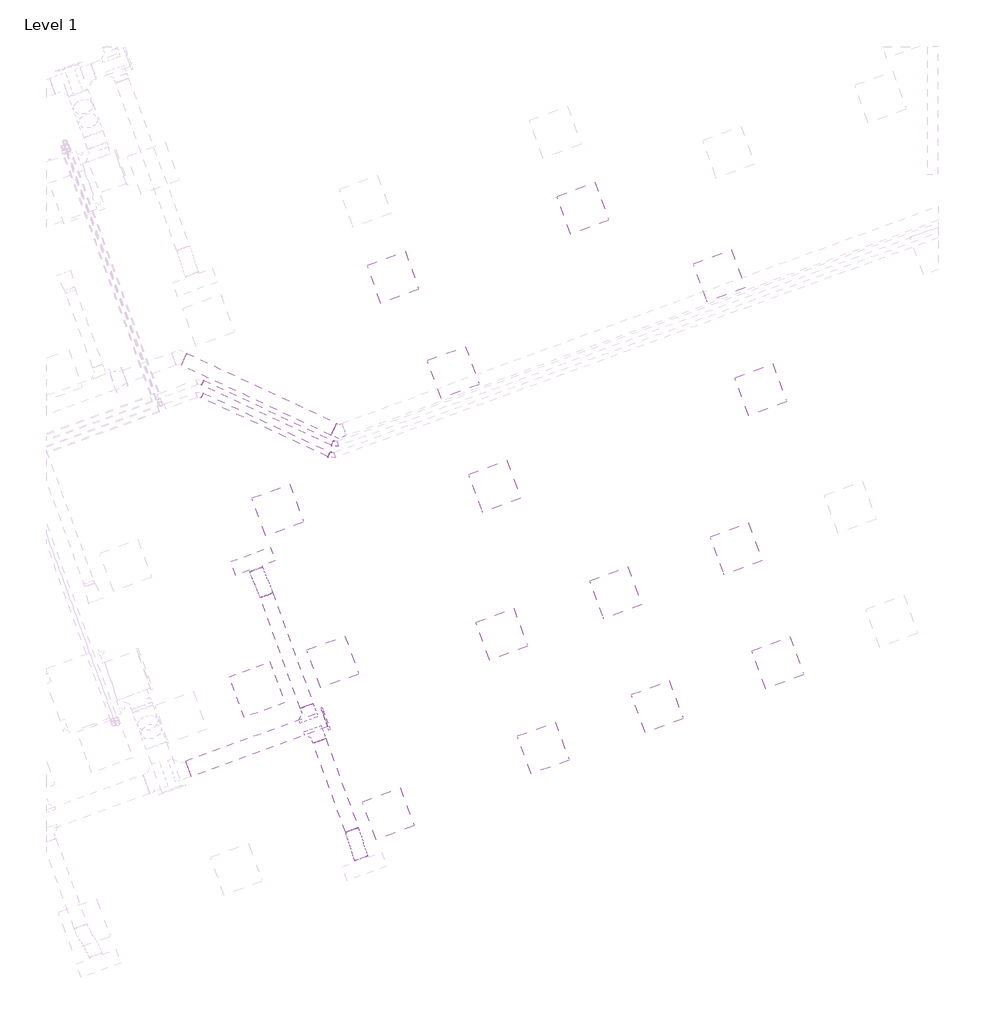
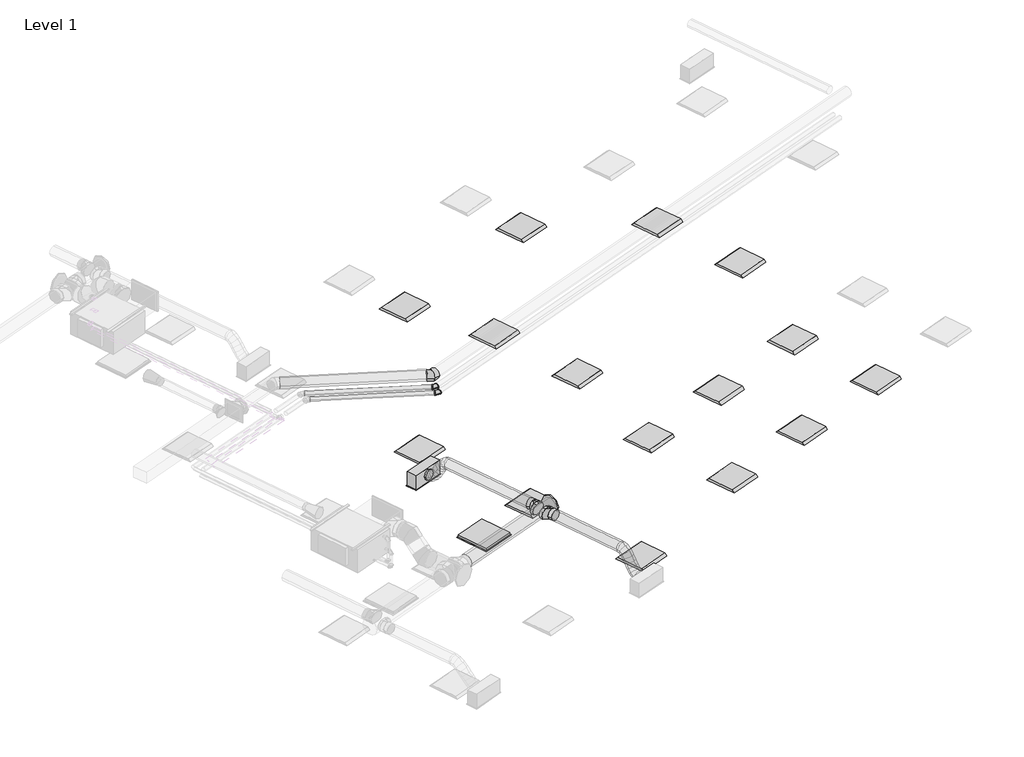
# One storey, part 24 of 30: 15 light fixtures, 6 duct segments, 4 duct fittings, 2 air terminals, 2 pipe fittings, 2 pipe segments.
"""IFC4 building model written with IfcOpenShell, lengths in millimetres."""

from ifc_helpers import new_model, si_unit, point, frame, frame_2d, origin, place, context, project, spatial, circle_curve, ellipse_curve, trimmed, segment, composite_curve, outline, extrude, transform, mapped, element, save
from ifc_brep_helpers import plane_surface, cylinder_surface, advanced_brep
from components import return_grille_rectangular_hosted_standard_7b12617c, supply_diffuser_with_plenum_linear_slot_hosted_8e4f2f20, dw144_round_blank_end_standard_9aa061e7, dw144_round_segmented_bend_slip_joint_standard_55afcd91, dw144_round_shoe_branch_slip_joint1_standard_2_559552f4, light_fixture_1c7c1157, light_fixture_b730b5ca, elbow_threaded_gmi_standard_9261818c

model = new_model("IFC4")

# Units and contexts
model_context = context("Model", 3, world=origin())
ifc_project = project(units=[si_unit("LENGTHUNIT", "METRE", prefix="MILLI")], contexts=[model_context])

# Site, building, storey
site = spatial("IfcSite", under=ifc_project)
building = spatial("IfcBuilding", under=site)
storey = spatial("IfcBuildingStorey", under=building, Name="Level 1", Elevation=3900.0)

# Air terminals
placement = place(None, origin())
return_grille_rectangular_hosted_standard_shape = return_grille_rectangular_hosted_standard_7b12617c(model_context)
element("IfcAirTerminal", 1, ObjectType="Return Grille - Rectangular - Hosted : Standard", at=placement, inside=storey, context=model_context, shape_type="MappedRepresentation", body=[
    mapped(return_grille_rectangular_hosted_standard_shape, transform((48064.0365319, 9235.5552547, 6500.0), x_axis=(0.939692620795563, 0.34202014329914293, 0.0), y_axis=(0.34202014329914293, -0.939692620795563, 0.0), z_axis=(0.0, 0.0, -1.0))),
])
supply_diffuser_with_plenum_linear_slot_hosted_shape = supply_diffuser_with_plenum_linear_slot_hosted_8e4f2f20(model_context)
element("IfcAirTerminal", 2, ObjectType="Supply Diffuser with Plenum - Linear Slot - Hosted : 24\" x 8\"-200 In Inlet  4-Slot", at=placement, inside=storey, context=model_context, shape_type="MappedRepresentation", body=[
    mapped(supply_diffuser_with_plenum_linear_slot_hosted_shape, transform((48007.2628307, 11142.0221269, 6500.0), x_axis=(0.9396926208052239, 0.3420201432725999, 0.0), y_axis=(0.3420201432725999, -0.9396926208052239, 0.0), z_axis=(0.0, 0.0, -1.0))),
])

# Duct fittings
dw144_round_blank_end_standard_shape = dw144_round_blank_end_standard_9aa061e7(model_context)
element("IfcDuctFitting", 3, ObjectType="DW144 Round Blank End : Standard", at=placement, inside=storey, context=model_context, shape_type="MappedRepresentation", body=[
    mapped(dw144_round_blank_end_standard_shape, transform((49072.7310347, 8798.1556694, 7052.2088531), x_axis=(0.9396926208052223, 0.3420201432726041, 0.0), y_axis=(-0.3420201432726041, 0.9396926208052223, 0.0), z_axis=(0.0, 0.0, 1.0))),
])
dw144_round_segmented_bend_slip_joint_standard_shape = dw144_round_segmented_bend_slip_joint_standard_55afcd91(model_context)
element("IfcDuctFitting", 4, ObjectType="DW144 Round Segmented Bend - Slip Joint : Standard", at=placement, inside=storey, context=model_context, shape_type="MappedRepresentation", body=[
    mapped(dw144_round_segmented_bend_slip_joint_standard_shape, transform((49279.3686987, 13067.8757559, 7000.0), x_axis=(0.9063077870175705, -0.42261826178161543, 0.0), y_axis=(0.42261826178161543, 0.9063077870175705, 0.0), z_axis=(0.0, 0.0, 1.0))),
])
dw144_round_shoe_branch_slip_joint1_standard_2_shape = dw144_round_shoe_branch_slip_joint1_standard_2_559552f4(model_context)
element("IfcDuctFitting", 5, ObjectType="DW144 Round Shoe Branch - Slip Joint1 : Standard 2", at=placement, inside=storey, context=model_context, shape_type="MappedRepresentation", body=[
    mapped(dw144_round_shoe_branch_slip_joint1_standard_2_shape, transform((48939.2384692, 8616.5461275, 7052.2088531), x_axis=(0.34202014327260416, -0.9396926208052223, 0.0), y_axis=(-0.9396926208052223, -0.34202014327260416, 0.0), z_axis=(0.0, 0.0, -1.0))),
])
element("IfcDuctFitting", 6, ObjectType="DW144 Round Shoe Branch - Slip Joint1 : Standard 2", at=placement, inside=storey, context=model_context, shape_type="MappedRepresentation", body=[
    mapped(dw144_round_shoe_branch_slip_joint1_standard_2_shape, transform((48853.7334333, 8851.4692827, 7052.2088531), x_axis=(-0.34202014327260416, 0.9396926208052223, 0.0), y_axis=(-0.9396926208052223, -0.34202014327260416, 0.0), z_axis=(0.0, 0.0, 1.0))),
])

# Duct segments
element("IfcDuctSegment", 7, ObjectType="DW144 Segmented Bend / Shoe Branch", at=placement, inside=storey, context=model_context, shape_type="SweptSolid", body=[
    extrude(outline(composite_curve([segment(trimmed(circle_curve(frame_2d((0.0, 125.0)), 125.0), [point((125.0, 125.0))], [point((0.0, 0.0))], False, "CARTESIAN"), True, "CONTINUOUS"), segment(trimmed(circle_curve(frame_2d((0.0, 125.0)), 125.0), [point((0.0, 0.0))], [point((-125.0, 125.0))], False, "CARTESIAN"), True, "CONTINUOUS"), segment(trimmed(circle_curve(frame_2d((0.0, 125.0)), 125.0), [point((-125.0, 125.0))], [point((0.0, 250.0))], False, "CARTESIAN"), True, "CONTINUOUS"), segment(trimmed(circle_curve(frame_2d((0.0, 125.0)), 125.0), [point((0.0, 250.0))], [point((125.0, 125.0))], False, "CARTESIAN"), True, "CONTINUOUS")], self_intersect=False)), frame((47047.5806818, 8061.0612212, 7177.2088531), z_axis=(0.9396926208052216, 0.34202014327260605, 0.0), x_axis=(0.34202014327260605, -0.9396926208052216, 0.0)), (0.0, 0.0, 1.0), 2155.1199914),
])
element("IfcDuctSegment", 8, ObjectType="DW144 Segmented Bend / Shoe Branch", at=placement, inside=storey, context=model_context, shape_type="SweptSolid", body=[
    extrude(outline(composite_curve([segment(trimmed(circle_curve(frame_2d((0.0, -100.0)), 100.0), [point((-100.0, -100.0))], [point((0.0, 0.0))], False, "CARTESIAN"), True, "CONTINUOUS"), segment(trimmed(circle_curve(frame_2d((0.0, -100.0)), 100.0), [point((0.0, 0.0))], [point((100.0, -100.0))], False, "CARTESIAN"), True, "CONTINUOUS"), segment(trimmed(circle_curve(frame_2d((0.0, -100.0)), 100.0), [point((100.0, -100.0))], [point((0.0, -200.0))], False, "CARTESIAN"), True, "CONTINUOUS"), segment(trimmed(circle_curve(frame_2d((0.0, -100.0)), 100.0), [point((0.0, -200.0))], [point((-100.0, -100.0))], False, "CARTESIAN"), True, "CONTINUOUS")], self_intersect=False)), frame((49472.7898927, 7150.6256391, 6952.2088531), z_axis=(-0.3420201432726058, 0.9396926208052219, 0.0), x_axis=(0.9396926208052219, 0.3420201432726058, 0.0)), (0.0, 0.0, 1.0), 1410.0),
])
element("IfcDuctSegment", 9, ObjectType="DW144 Segmented Bend / Shoe Branch", at=placement, inside=storey, context=model_context, shape_type="SweptSolid", body=[
    extrude(outline(composite_curve([segment(trimmed(circle_curve(frame_2d((0.0, 100.0)), 100.0), [point((99.9999999, 100.0))], [point((0.0, 0.0))], False, "CARTESIAN"), True, "CONTINUOUS"), segment(trimmed(circle_curve(frame_2d((0.0, 100.0)), 100.0), [point((0.0, 0.0))], [point((-100.0, 100.0))], False, "CARTESIAN"), True, "CONTINUOUS"), segment(trimmed(circle_curve(frame_2d((0.0, 100.0)), 100.0), [point((-100.0, 100.0))], [point((0.0, 200.0))], False, "CARTESIAN"), True, "CONTINUOUS"), segment(trimmed(circle_curve(frame_2d((0.0, 100.0)), 100.0), [point((0.0, 200.0))], [point((99.9999999, 100.0))], False, "CARTESIAN"), True, "CONTINUOUS")], self_intersect=False)), frame((48802.4304119, 8992.4231759, 7152.2088531), z_axis=(-0.3420201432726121, 0.9396926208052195, 0.0), x_axis=(0.9396926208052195, 0.3420201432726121, 0.0)), (0.0, 0.0, 1.0), 1749.637173),
])
element("IfcDuctSegment", 10, ObjectType="DW144 Segmented Bend / Shoe Branch", at=placement, inside=storey, context=model_context, shape_type="SweptSolid", body=[
    extrude(outline(composite_curve([segment(trimmed(circle_curve(frame_2d((0.0, 100.0)), 100.0), [point((100.0, 100.0))], [point((0.0, 0.0))], False, "CARTESIAN"), True, "CONTINUOUS"), segment(trimmed(circle_curve(frame_2d((0.0, 100.0)), 100.0), [point((0.0, 0.0))], [point((-100.0, 100.0))], False, "CARTESIAN"), True, "CONTINUOUS"), segment(trimmed(circle_curve(frame_2d((0.0, 100.0)), 100.0), [point((-100.0, 100.0))], [point((0.0, 200.0))], False, "CARTESIAN"), True, "CONTINUOUS"), segment(trimmed(circle_curve(frame_2d((0.0, 100.0)), 100.0), [point((0.0, 200.0))], [point((100.0, 100.0))], False, "CARTESIAN"), True, "CONTINUOUS")], self_intersect=False)), frame((49204.2877033, 13102.886599, 7100.0), z_axis=(-0.9063077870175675, 0.4226182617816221, 0.0), x_axis=(0.4226182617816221, 0.9063077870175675, 0.0)), (0.0, 0.0, 1.0), 2451.965434),
])
element("IfcDuctSegment", 11, ObjectType="Flex - Round", at=placement, inside=storey, context=model_context, shape_type="AdvancedBrep", body=[
    advanced_brep(
    [(49566.7591548, 7184.8276534, 7052.2088531), (49472.7898927, 7150.6256391, 6952.2088531), (49378.8206306, 7116.4236248, 7052.2088531), (49472.7898927, 7150.6256391, 7152.2088531), (49575.2907546, 7161.3872755, 7052.2088531), (49474.6691371, 7145.4624575, 6952.2088531), (49386.9543252, 7094.0764825, 7052.2088531), (49487.5759427, 7110.0013005, 7152.2088531), (49707.2689937, 6762.922244, 6654.4), (49613.2997316, 6728.7202297, 6754.4), (49519.3304695, 6694.5182154, 6654.4), (49613.2997316, 6728.7202297, 6554.4), (49590.0548191, 7119.2485315, 7034.7378026), (49478.7608231, 7133.7842024, 6947.3669579), (49401.0800301, 7053.7597078, 7035.4932053), (49512.374026, 7039.2240369, 7122.8640501), (49608.5697205, 7064.2714613, 6989.165631), (49490.3762668, 7099.2939805, 6918.7769601), (49419.1822461, 7000.0080419, 6990.9368086), (49537.3756998, 6964.9855228, 7061.3254796), (49623.9972059, 7016.1051382, 6925.0457422), (49502.5188441, 7061.3835053, 6868.3098433), (49434.4132473, 6952.455164, 6927.6335492), (49555.8916091, 6907.1767969, 6984.3694481), (49637.861176, 6971.4193261, 6851.881839), (49515.5674695, 7019.3256805, 6799.4487335), (49448.2284483, 6907.9265427, 6854.7270141), (49570.5221548, 6860.0201882, 6907.1601196), (49651.676377, 6926.8907048, 6778.9753039), (49530.1980152, 6972.1690719, 6722.239405), (49462.0924184, 6863.2407305, 6781.5631109), (49583.5707802, 6817.9623635, 6838.2990098), (49666.9073782, 6879.3378269, 6715.6720445), (49548.7139245, 6914.360346, 6645.2833736), (49477.5199037, 6815.0744074, 6717.4432221), (49595.7133575, 6780.0518883, 6787.831893), (49685.0095942, 6825.5861609, 6671.1156478), (49573.7155983, 6840.1218319, 6583.7448031), (49496.0348052, 6760.0973373, 6671.8710505), (49607.3288011, 6745.5616664, 6759.2418952), (49699.1352991, 6785.2693863, 6654.4), (49598.5136816, 6769.3445683, 6554.4), (49510.7988697, 6717.9585933, 6654.4), (49611.4204872, 6733.8834113, 6754.4)],
    [
        (0, 1, circle_curve(frame((49472.7898927, 7150.6256391, 7052.2088531), z_axis=(-0.34202014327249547, 0.939692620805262, 0.0), x_axis=(0.939692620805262, 0.34202014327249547, 0.0)), 100.0)),
        (1, 2, circle_curve(frame((49472.7898927, 7150.6256391, 7052.2088531), z_axis=(-0.34202014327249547, 0.939692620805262, 0.0), x_axis=(0.939692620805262, 0.34202014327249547, 0.0)), 100.0)),
        (2, 3, circle_curve(frame((49472.7898927, 7150.6256391, 7052.2088531), z_axis=(-0.34202014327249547, 0.939692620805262, 0.0), x_axis=(0.939692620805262, 0.34202014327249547, 0.0)), 100.0)),
        (3, 0, circle_curve(frame((49472.7898927, 7150.6256391, 7052.2088531), z_axis=(-0.34202014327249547, 0.939692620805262, 0.0), x_axis=(0.939692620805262, 0.34202014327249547, 0.0)), 100.0)),
        (0, 4),
        (4, 5, ellipse_curve(frame((49481.1225399, 7127.731879, 7052.2088531), z_axis=(-0.3307129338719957, 0.9253388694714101, 0.185410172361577), x_axis=(-0.0918977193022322, 0.1639550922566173, -0.9821779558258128)), 101.7661938, 100.0)),
        (5, 1),
        (5, 6, ellipse_curve(frame((49481.1225399, 7127.731879, 7052.2088531), z_axis=(-0.3307129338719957, 0.9253388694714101, 0.185410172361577), x_axis=(-0.0918977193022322, 0.1639550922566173, -0.9821779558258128)), 101.7661938, 100.0)),
        (6, 2),
        (6, 7, ellipse_curve(frame((49481.1225399, 7127.731879, 7052.2088531), z_axis=(-0.3307129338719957, 0.9253388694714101, 0.185410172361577), x_axis=(-0.0918977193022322, 0.1639550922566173, -0.9821779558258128)), 101.7661938, 100.0)),
        (7, 3),
        (7, 4, ellipse_curve(frame((49481.1225399, 7127.731879, 7052.2088531), z_axis=(-0.3307129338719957, 0.9253388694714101, 0.185410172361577), x_axis=(-0.0918977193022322, 0.1639550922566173, -0.9821779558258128)), 101.7661938, 100.0)),
        (8, 9, circle_curve(frame((49613.2997316, 6728.7202297, 6654.4), z_axis=(0.34202014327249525, -0.9396926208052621, 0.0), x_axis=(0.9396926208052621, 0.34202014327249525, 0.0)), 100.0)),
        (9, 10, circle_curve(frame((49613.2997316, 6728.7202297, 6654.4), z_axis=(0.34202014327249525, -0.9396926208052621, 0.0), x_axis=(0.9396926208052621, 0.34202014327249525, 0.0)), 100.0)),
        (10, 11, circle_curve(frame((49613.2997316, 6728.7202297, 6654.4), z_axis=(0.34202014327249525, -0.9396926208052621, 0.0), x_axis=(0.9396926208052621, 0.34202014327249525, 0.0)), 100.0)),
        (11, 8, circle_curve(frame((49613.2997316, 6728.7202297, 6654.4), z_axis=(0.34202014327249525, -0.9396926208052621, 0.0), x_axis=(0.9396926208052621, 0.34202014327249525, 0.0)), 100.0)),
        (4, 12),
        (12, 13, ellipse_curve(frame((49495.5674246, 7086.5041197, 7035.115504), z_axis=(-0.2824808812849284, 0.8208536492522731, 0.4963908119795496), x_axis=(-0.19498919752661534, 0.45752877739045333, -0.8675520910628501)), 101.0835412, 100.0)),
        (13, 5),
        (13, 14, ellipse_curve(frame((49495.5674246, 7086.5041197, 7035.115504), z_axis=(-0.2824808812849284, 0.8208536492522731, 0.4963908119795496), x_axis=(-0.19498919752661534, 0.45752877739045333, -0.8675520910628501)), 101.0835412, 100.0)),
        (14, 6),
        (14, 15, ellipse_curve(frame((49495.5674246, 7086.5041197, 7035.115504), z_axis=(-0.2824808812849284, 0.8208536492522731, 0.4963908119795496), x_axis=(-0.19498919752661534, 0.45752877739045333, -0.8675520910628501)), 101.0835412, 100.0)),
        (15, 7),
        (15, 12, ellipse_curve(frame((49495.5674246, 7086.5041197, 7035.115504), z_axis=(-0.2824808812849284, 0.8208536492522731, 0.4963908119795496), x_axis=(-0.19498919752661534, 0.45752877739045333, -0.8675520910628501)), 101.0835412, 100.0)),
        (12, 16),
        (16, 17, ellipse_curve(frame((49513.8759833, 7032.1397516, 6990.0512198), z_axis=(-0.22150126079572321, 0.6722448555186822, 0.7064163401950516), x_axis=(-0.26220874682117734, 0.6566735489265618, -0.7071254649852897)), 100.707905, 100.0)),
        (17, 13),
        (17, 18, ellipse_curve(frame((49513.8759833, 7032.1397516, 6990.0512198), z_axis=(-0.22150126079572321, 0.6722448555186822, 0.7064163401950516), x_axis=(-0.26220874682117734, 0.6566735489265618, -0.7071254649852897)), 100.707905, 100.0)),
        (18, 14),
        (18, 19, ellipse_curve(frame((49513.8759833, 7032.1397516, 6990.0512198), z_axis=(-0.22150126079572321, 0.6722448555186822, 0.7064163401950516), x_axis=(-0.26220874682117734, 0.6566735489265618, -0.7071254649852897)), 100.707905, 100.0)),
        (19, 15),
        (19, 16, ellipse_curve(frame((49513.8759833, 7032.1397516, 6990.0512198), z_axis=(-0.22150126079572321, 0.6722448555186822, 0.7064163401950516), x_axis=(-0.26220874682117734, 0.6566735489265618, -0.7071254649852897)), 100.707905, 100.0)),
        (16, 20),
        (20, 21, ellipse_curve(frame((49529.2052266, 6984.2801511, 6926.3396457), z_axis=(-0.17448909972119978, 0.5528501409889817, 0.8148068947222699), x_axis=(-0.2955838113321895, 0.759927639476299, -0.5789129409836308)), 100.1227823, 100.0)),
        (21, 17),
        (21, 22, ellipse_curve(frame((49529.2052266, 6984.2801511, 6926.3396457), z_axis=(-0.17448909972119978, 0.5528501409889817, 0.8148068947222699), x_axis=(-0.2955838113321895, 0.759927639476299, -0.5789129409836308)), 100.1227823, 100.0)),
        (22, 18),
        (22, 23, ellipse_curve(frame((49529.2052266, 6984.2801511, 6926.3396457), z_axis=(-0.17448909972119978, 0.5528501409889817, 0.8148068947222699), x_axis=(-0.2955838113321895, 0.759927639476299, -0.5789129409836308)), 100.1227823, 100.0)),
        (23, 19),
        (23, 20, ellipse_curve(frame((49529.2052266, 6984.2801511, 6926.3396457), z_axis=(-0.17448909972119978, 0.5528501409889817, 0.8148068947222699), x_axis=(-0.2955838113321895, 0.759927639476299, -0.5789129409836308)), 100.1227823, 100.0)),
        (20, 24),
        (24, 25, circle_curve(frame((49543.0448121, 6939.6729344, 6853.3044266), z_axis=(-0.15964109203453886, 0.514548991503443, 0.8424690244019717), x_axis=(0.9481636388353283, 0.31746391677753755, -0.014225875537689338)), 100.0)),
        (25, 21),
        (25, 26, circle_curve(frame((49543.0448121, 6939.6729344, 6853.3044266), z_axis=(-0.15964109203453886, 0.514548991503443, 0.8424690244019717), x_axis=(0.9481636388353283, 0.31746391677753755, -0.014225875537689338)), 100.0)),
        (26, 22),
        (26, 27, circle_curve(frame((49543.0448121, 6939.6729344, 6853.3044266), z_axis=(-0.15964109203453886, 0.514548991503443, 0.8424690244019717), x_axis=(0.9481636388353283, 0.31746391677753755, -0.014225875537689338)), 100.0)),
        (27, 23),
        (27, 24, circle_curve(frame((49543.0448121, 6939.6729344, 6853.3044266), z_axis=(-0.15964109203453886, 0.514548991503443, 0.8424690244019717), x_axis=(0.9481636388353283, 0.31746391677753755, -0.014225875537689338)), 100.0)),
        (24, 28),
        (28, 29, ellipse_curve(frame((49556.8843977, 6895.0657177, 6780.2692074), z_axis=(-0.17448909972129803, 0.5528501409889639, 0.8148068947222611), x_axis=(0.29558381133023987, -0.7599276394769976, 0.5789129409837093)), 100.1227823, 100.0)),
        (29, 25),
        (29, 30, ellipse_curve(frame((49556.8843977, 6895.0657177, 6780.2692074), z_axis=(-0.17448909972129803, 0.5528501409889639, 0.8148068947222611), x_axis=(0.29558381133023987, -0.7599276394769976, 0.5789129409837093)), 100.1227823, 100.0)),
        (30, 26),
        (30, 31, ellipse_curve(frame((49556.8843977, 6895.0657177, 6780.2692074), z_axis=(-0.17448909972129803, 0.5528501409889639, 0.8148068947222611), x_axis=(0.29558381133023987, -0.7599276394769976, 0.5789129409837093)), 100.1227823, 100.0)),
        (31, 27),
        (31, 28, ellipse_curve(frame((49556.8843977, 6895.0657177, 6780.2692074), z_axis=(-0.17448909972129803, 0.5528501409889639, 0.8148068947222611), x_axis=(0.29558381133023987, -0.7599276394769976, 0.5789129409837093)), 100.1227823, 100.0)),
        (28, 32),
        (32, 33, ellipse_curve(frame((49572.213641, 6847.2061172, 6716.5576333), z_axis=(-0.22150126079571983, 0.672244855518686, 0.7064163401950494), x_axis=(0.26220874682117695, -0.656673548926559, 0.7071254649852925)), 100.707905, 100.0)),
        (33, 29),
        (33, 34, ellipse_curve(frame((49572.213641, 6847.2061172, 6716.5576333), z_axis=(-0.22150126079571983, 0.672244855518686, 0.7064163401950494), x_axis=(0.26220874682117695, -0.656673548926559, 0.7071254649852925)), 100.707905, 100.0)),
        (34, 30),
        (34, 35, ellipse_curve(frame((49572.213641, 6847.2061172, 6716.5576333), z_axis=(-0.22150126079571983, 0.672244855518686, 0.7064163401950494), x_axis=(0.26220874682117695, -0.656673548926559, 0.7071254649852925)), 100.707905, 100.0)),
        (35, 31),
        (35, 32, ellipse_curve(frame((49572.213641, 6847.2061172, 6716.5576333), z_axis=(-0.22150126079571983, 0.672244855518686, 0.7064163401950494), x_axis=(0.26220874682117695, -0.656673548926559, 0.7071254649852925)), 100.707905, 100.0)),
        (32, 36),
        (36, 37, ellipse_curve(frame((49590.5221997, 6792.8417491, 6671.4933492), z_axis=(-0.2824808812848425, 0.8208536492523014, 0.49639081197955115), x_axis=(0.1949891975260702, -0.4575287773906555, 0.8675520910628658)), 101.0835412, 100.0)),
        (37, 33),
        (37, 38, ellipse_curve(frame((49590.5221997, 6792.8417491, 6671.4933492), z_axis=(-0.2824808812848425, 0.8208536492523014, 0.49639081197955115), x_axis=(0.1949891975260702, -0.4575287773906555, 0.8675520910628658)), 101.0835412, 100.0)),
        (38, 34),
        (38, 39, ellipse_curve(frame((49590.5221997, 6792.8417491, 6671.4933492), z_axis=(-0.2824808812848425, 0.8208536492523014, 0.49639081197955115), x_axis=(0.1949891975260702, -0.4575287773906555, 0.8675520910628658)), 101.0835412, 100.0)),
        (39, 35),
        (39, 36, ellipse_curve(frame((49590.5221997, 6792.8417491, 6671.4933492), z_axis=(-0.2824808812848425, 0.8208536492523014, 0.49639081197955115), x_axis=(0.1949891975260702, -0.4575287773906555, 0.8675520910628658)), 101.0835412, 100.0)),
        (36, 40),
        (40, 41, ellipse_curve(frame((49604.9670844, 6751.6139898, 6654.4), z_axis=(-0.3307129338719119, 0.92533886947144, 0.18541017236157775), x_axis=(0.09189771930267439, -0.16395509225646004, 0.9821779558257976)), 101.7661938, 100.0)),
        (41, 37),
        (41, 42, ellipse_curve(frame((49604.9670844, 6751.6139898, 6654.4), z_axis=(-0.3307129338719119, 0.92533886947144, 0.18541017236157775), x_axis=(0.09189771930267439, -0.16395509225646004, 0.9821779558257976)), 101.7661938, 100.0)),
        (42, 38),
        (42, 43, ellipse_curve(frame((49604.9670844, 6751.6139898, 6654.4), z_axis=(-0.3307129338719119, 0.92533886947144, 0.18541017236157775), x_axis=(0.09189771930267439, -0.16395509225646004, 0.9821779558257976)), 101.7661938, 100.0)),
        (43, 39),
        (43, 40, ellipse_curve(frame((49604.9670844, 6751.6139898, 6654.4), z_axis=(-0.3307129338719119, 0.92533886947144, 0.18541017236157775), x_axis=(0.09189771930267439, -0.16395509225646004, 0.9821779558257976)), 101.7661938, 100.0)),
        (40, 8),
        (11, 41),
        (10, 42),
        (9, 43),
    ],
    [
        plane_surface(frame((49472.7898927, 7150.6256391, 6952.2088531), z_axis=(-0.3420201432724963, 0.9396926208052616, 0.0), x_axis=(0.9396926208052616, 0.3420201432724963, 0.0))),
        cylinder_surface(frame((49472.7898927, 7150.6256391, 7052.2088531), z_axis=(-0.34202014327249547, 0.939692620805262, 0.0), x_axis=(0.939692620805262, 0.34202014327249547, 0.0)), 100.0),
        plane_surface(frame((49613.2997316, 6728.7202297, 6554.4), z_axis=(0.3420201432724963, -0.9396926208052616, 0.0), x_axis=(0.9396926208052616, 0.3420201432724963, 0.0))),
        cylinder_surface(frame((49481.1225399, 7127.731879, 7052.2088531), z_axis=(-0.30792640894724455, 0.8788658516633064, 0.3643846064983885), x_axis=(0.9434733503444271, 0.33144161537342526, -0.0021196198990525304)), 100.0),
        cylinder_surface(frame((49495.5674246, 7086.5041197, 7035.115504), z_axis=(-0.25097937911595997, 0.7452435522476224, 0.6177551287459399), x_axis=(0.9460155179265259, 0.3240543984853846, -0.006586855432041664)), 100.0),
        cylinder_surface(frame((49513.8759833, 7032.1397516, 6990.0512198), z_axis=(-0.18890914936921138, 0.5897953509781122, 0.7851463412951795), x_axis=(0.9476312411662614, 0.31915076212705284, -0.011739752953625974)), 100.0),
        cylinder_surface(frame((49529.2052266, 6984.2801511, 6926.3396457), z_axis=(-0.15964109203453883, 0.5145489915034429, 0.8424690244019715), x_axis=(0.9481636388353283, 0.31746391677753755, -0.014225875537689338)), 100.0),
        cylinder_surface(frame((49543.0448121, 6939.6729344, 6853.3044266), z_axis=(-0.15964109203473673, 0.5145489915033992, 0.8424690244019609), x_axis=(0.9481636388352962, 0.3174639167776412, -0.014225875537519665)), 100.0),
        cylinder_surface(frame((49556.8843977, 6895.0657177, 6780.2692074), z_axis=(-0.18890914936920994, 0.589795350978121, 0.7851463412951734), x_axis=(0.9476312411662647, 0.31915076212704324, -0.011739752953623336)), 100.0),
        cylinder_surface(frame((49572.213641, 6847.2061172, 6716.5576333), z_axis=(-0.25097937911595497, 0.745243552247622, 0.6177551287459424), x_axis=(0.9460155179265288, 0.32405439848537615, -0.006586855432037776)), 100.0),
        cylinder_surface(frame((49590.5221997, 6792.8417491, 6671.4933492), z_axis=(-0.3079264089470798, 0.8788658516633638, 0.3643846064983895), x_axis=(0.9434733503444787, 0.33144161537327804, -0.002119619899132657)), 100.0),
        cylinder_surface(frame((49604.9670844, 6751.6139898, 6654.4), z_axis=(-0.34202014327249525, 0.9396926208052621, 0.0), x_axis=(0.9396926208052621, 0.34202014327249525, 0.0)), 100.0),
    ],
    [
        (0, [[1, 2, 3, 4]]),
        (1, [[-1, 5, 6, 7]]),
        (1, [[-2, -7, 8, 9]]),
        (1, [[-3, -9, 10, 11]]),
        (1, [[-4, -11, 12, -5]]),
        (2, [[13, 14, 15, 16]]),
        (3, [[-6, 17, 18, 19]]),
        (3, [[-8, -19, 20, 21]]),
        (3, [[-10, -21, 22, 23]]),
        (3, [[-12, -23, 24, -17]]),
        (4, [[-18, 25, 26, 27]]),
        (4, [[-20, -27, 28, 29]]),
        (4, [[-22, -29, 30, 31]]),
        (4, [[-24, -31, 32, -25]]),
        (5, [[-26, 33, 34, 35]]),
        (5, [[-28, -35, 36, 37]]),
        (5, [[-30, -37, 38, 39]]),
        (5, [[-32, -39, 40, -33]]),
        (6, [[-34, 41, 42, 43]]),
        (6, [[-36, -43, 44, 45]]),
        (6, [[-38, -45, 46, 47]]),
        (6, [[-40, -47, 48, -41]]),
        (7, [[-42, 49, 50, 51]]),
        (7, [[-44, -51, 52, 53]]),
        (7, [[-46, -53, 54, 55]]),
        (7, [[-48, -55, 56, -49]]),
        (8, [[-50, 57, 58, 59]]),
        (8, [[-52, -59, 60, 61]]),
        (8, [[-54, -61, 62, 63]]),
        (8, [[-56, -63, 64, -57]]),
        (9, [[-58, 65, 66, 67]]),
        (9, [[-60, -67, 68, 69]]),
        (9, [[-62, -69, 70, 71]]),
        (9, [[-64, -71, 72, -65]]),
        (10, [[-66, 73, 74, 75]]),
        (10, [[-68, -75, 76, 77]]),
        (10, [[-70, -77, 78, 79]]),
        (10, [[-72, -79, 80, -73]]),
        (11, [[-74, 81, -16, 82]]),
        (11, [[-76, -82, -15, 83]]),
        (11, [[-78, -83, -14, 84]]),
        (11, [[-80, -84, -13, -81]]),
    ],
),
])
element("IfcDuctSegment", 12, ObjectType="Flex - Round", at=placement, inside=storey, context=model_context, shape_type="AdvancedBrep", body=[
    advanced_brep(
    [(48110.0499932, 10602.3423021, 7052.2088531), (48204.0192553, 10636.5443165, 6952.2088531), (48297.9885173, 10670.7463308, 7052.2088531), (48204.0192553, 10636.5443165, 7152.2088531), (48101.5456158, 10625.7078869, 7052.2088531), (48202.4089934, 10640.9684745, 6952.2088531), (48289.0550212, 10695.2909097, 7052.2088531), (48188.1916436, 10680.030322, 7152.2088531), (47957.3799651, 10986.6937338, 6654.4), (48051.3492272, 11020.8957481, 6754.4), (48145.3184893, 11055.0977624, 6654.4), (48051.3492272, 11020.8957481, 6554.4), (48087.951701, 10661.5859336, 7035.5408326), (48199.9610053, 10647.4293824, 6949.207281), (48274.7673369, 10733.0000031, 7034.6901753), (48162.7580326, 10747.1565543, 7121.0237269), (48068.5844947, 10710.8661941, 6990.9995344), (48187.9005637, 10678.1174278, 6921.4703054), (48254.9453269, 10783.4375213, 6989.1029053), (48135.6292579, 10816.1862876, 7058.6321343), (48051.150449, 10753.1809184, 6927.7131973), (48174.2305242, 10711.2964134, 6871.8474731), (48237.2769936, 10826.3208924, 6924.9660941), (48114.1969184, 10868.2053974, 6980.8318183), (48034.650821, 10792.0796675, 6854.8098789), (48158.6900873, 10747.9338184, 6803.1823241), (48220.7176615, 10865.3603971, 6851.7989742), (48096.6783951, 10909.5062462, 6903.426529), (48018.0914889, 10831.1191721, 6781.642759), (48141.171564, 10789.2346672, 6725.7770348), (48204.2180334, 10904.2591462, 6778.8956558), (48081.1379582, 10946.1436511, 6834.7613801), (48000.4231556, 10874.0025433, 6717.5059479), (48119.7392246, 10841.253777, 6647.9767188), (48186.7839878, 10946.5738704, 6715.6093187), (48067.4679188, 10979.3226367, 6785.1385478), (47980.6011455, 10924.4400615, 6671.9186778), (48092.6104499, 10910.2835103, 6585.5851262), (48167.4167815, 10995.8541309, 6671.0680205), (48055.4074771, 11010.0106822, 6757.4015721), (47966.3134612, 10962.1491549, 6654.4), (48067.1768388, 10977.4097425, 6554.4), (48153.8228666, 11031.7321777, 6654.4), (48052.959489, 11016.47159, 6754.4)],
    [
        (0, 1, circle_curve(frame((48204.0192553, 10636.5443165, 7052.2088531), z_axis=(0.34202014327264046, -0.9396926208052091, 0.0), x_axis=(-0.9396926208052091, -0.34202014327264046, 0.0)), 100.0)),
        (1, 2, circle_curve(frame((48204.0192553, 10636.5443165, 7052.2088531), z_axis=(0.34202014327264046, -0.9396926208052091, 0.0), x_axis=(-0.9396926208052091, -0.34202014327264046, 0.0)), 100.0)),
        (2, 3, circle_curve(frame((48204.0192553, 10636.5443165, 7052.2088531), z_axis=(0.34202014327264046, -0.9396926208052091, 0.0), x_axis=(-0.9396926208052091, -0.34202014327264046, 0.0)), 100.0)),
        (3, 0, circle_curve(frame((48204.0192553, 10636.5443165, 7052.2088531), z_axis=(0.34202014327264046, -0.9396926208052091, 0.0), x_axis=(-0.9396926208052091, -0.34202014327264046, 0.0)), 100.0)),
        (0, 4),
        (4, 5, ellipse_curve(frame((48195.3003185, 10660.4993983, 7052.2088531), z_axis=(0.3406289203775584, -0.9179124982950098, 0.20349099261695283), x_axis=(0.0418738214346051, -0.20140838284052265, -0.9786118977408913)), 102.1390414, 100.0)),
        (5, 1),
        (5, 6, ellipse_curve(frame((48195.3003185, 10660.4993983, 7052.2088531), z_axis=(0.3406289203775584, -0.9179124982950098, 0.20349099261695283), x_axis=(0.0418738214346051, -0.20140838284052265, -0.9786118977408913)), 102.1390414, 100.0)),
        (6, 2),
        (6, 7, ellipse_curve(frame((48195.3003185, 10660.4993983, 7052.2088531), z_axis=(0.3406289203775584, -0.9179124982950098, 0.20349099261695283), x_axis=(0.0418738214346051, -0.20140838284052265, -0.9786118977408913)), 102.1390414, 100.0)),
        (7, 3),
        (7, 4, ellipse_curve(frame((48195.3003185, 10660.4993983, 7052.2088531), z_axis=(0.3406289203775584, -0.9179124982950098, 0.20349099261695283), x_axis=(0.0418738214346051, -0.20140838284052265, -0.9786118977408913)), 102.1390414, 100.0)),
        (8, 9, circle_curve(frame((48051.3492272, 11020.8957481, 6654.4), z_axis=(-0.3420201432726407, 0.9396926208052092, 0.0), x_axis=(-0.939692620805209, -0.34202014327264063, 0.0)), 100.0)),
        (9, 10, circle_curve(frame((48051.3492272, 11020.8957481, 6654.4), z_axis=(-0.3420201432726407, 0.9396926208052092, 0.0), x_axis=(-0.939692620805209, -0.34202014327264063, 0.0)), 100.0)),
        (10, 11, circle_curve(frame((48051.3492272, 11020.8957481, 6654.4), z_axis=(-0.3420201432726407, 0.9396926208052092, 0.0), x_axis=(-0.939692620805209, -0.34202014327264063, 0.0)), 100.0)),
        (11, 8, circle_curve(frame((48051.3492272, 11020.8957481, 6654.4), z_axis=(-0.3420201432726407, 0.9396926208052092, 0.0), x_axis=(-0.939692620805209, -0.34202014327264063, 0.0)), 100.0)),
        (4, 12),
        (12, 13, ellipse_curve(frame((48181.359519, 10697.2929683, 7035.115504), z_axis=(0.30563861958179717, -0.7932625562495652, 0.5266113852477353), x_axis=(0.15609776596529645, -0.5038483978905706, -0.8495706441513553)), 101.0584433, 100.0)),
        (13, 5),
        (13, 14, ellipse_curve(frame((48181.359519, 10697.2929683, 7035.115504), z_axis=(0.30563861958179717, -0.7932625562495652, 0.5266113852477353), x_axis=(0.15609776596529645, -0.5038483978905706, -0.8495706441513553)), 101.0584433, 100.0)),
        (14, 6),
        (14, 15, ellipse_curve(frame((48181.359519, 10697.2929683, 7035.115504), z_axis=(0.30563861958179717, -0.7932625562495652, 0.5266113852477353), x_axis=(0.15609776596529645, -0.5038483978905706, -0.8495706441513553)), 101.0584433, 100.0)),
        (15, 7),
        (15, 12, ellipse_curve(frame((48181.359519, 10697.2929683, 7035.115504), z_axis=(0.30563861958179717, -0.7932625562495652, 0.5266113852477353), x_axis=(0.15609776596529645, -0.5038483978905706, -0.8495706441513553)), 101.0584433, 100.0)),
        (12, 16),
        (16, 17, ellipse_curve(frame((48161.7649108, 10747.1518577, 6990.0512198), z_axis=(0.2534740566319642, -0.6317684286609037, 0.7325432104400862), x_axis=(0.23137065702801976, -0.695699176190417, -0.6800516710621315)), 100.7586488, 100.0)),
        (17, 13),
        (17, 18, ellipse_curve(frame((48161.7649108, 10747.1518577, 6990.0512198), z_axis=(0.2534740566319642, -0.6317684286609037, 0.7325432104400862), x_axis=(0.23137065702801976, -0.695699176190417, -0.6800516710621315)), 100.7586488, 100.0)),
        (18, 14),
        (18, 19, ellipse_curve(frame((48161.7649108, 10747.1518577, 6990.0512198), z_axis=(0.2534740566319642, -0.6317684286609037, 0.7325432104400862), x_axis=(0.23137065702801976, -0.695699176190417, -0.6800516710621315)), 100.7586488, 100.0)),
        (19, 15),
        (19, 16, ellipse_curve(frame((48161.7649108, 10747.1518577, 6990.0512198), z_axis=(0.2534740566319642, -0.6317684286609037, 0.7325432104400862), x_axis=(0.23137065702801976, -0.695699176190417, -0.6800516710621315)), 100.7586488, 100.0)),
        (16, 20),
        (20, 21, ellipse_curve(frame((48144.2137213, 10789.7509054, 6926.3396457), z_axis=(0.20978625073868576, -0.5023580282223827, 0.8388242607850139), x_axis=(0.2716085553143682, -0.7942072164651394, -0.5435657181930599)), 100.127598, 100.0)),
        (21, 17),
        (21, 22, ellipse_curve(frame((48144.2137213, 10789.7509054, 6926.3396457), z_axis=(0.20978625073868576, -0.5023580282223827, 0.8388242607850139), x_axis=(0.2716085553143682, -0.7942072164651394, -0.5435657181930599)), 100.127598, 100.0)),
        (22, 18),
        (22, 23, ellipse_curve(frame((48144.2137213, 10789.7509054, 6926.3396457), z_axis=(0.20978625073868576, -0.5023580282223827, 0.8388242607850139), x_axis=(0.2716085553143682, -0.7942072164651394, -0.5435657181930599)), 100.127598, 100.0)),
        (23, 19),
        (23, 20, ellipse_curve(frame((48144.2137213, 10789.7509054, 6926.3396457), z_axis=(0.20978625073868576, -0.5023580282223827, 0.8388242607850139), x_axis=(0.2716085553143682, -0.7942072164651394, -0.5435657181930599)), 100.127598, 100.0)),
        (20, 24),
        (24, 25, circle_curve(frame((48127.6842412, 10828.7200323, 6853.3044266), z_axis=(0.1958111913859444, -0.46163527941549, 0.8651883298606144), x_axis=(-0.9303342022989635, -0.3664036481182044, 0.015054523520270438)), 100.0)),
        (25, 21),
        (25, 26, circle_curve(frame((48127.6842412, 10828.7200323, 6853.3044266), z_axis=(0.1958111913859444, -0.46163527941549, 0.8651883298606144), x_axis=(-0.9303342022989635, -0.3664036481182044, 0.015054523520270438)), 100.0)),
        (26, 22),
        (26, 27, circle_curve(frame((48127.6842412, 10828.7200323, 6853.3044266), z_axis=(0.1958111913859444, -0.46163527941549, 0.8651883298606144), x_axis=(-0.9303342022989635, -0.3664036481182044, 0.015054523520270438)), 100.0)),
        (27, 23),
        (27, 24, circle_curve(frame((48127.6842412, 10828.7200323, 6853.3044266), z_axis=(0.1958111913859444, -0.46163527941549, 0.8651883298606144), x_axis=(-0.9303342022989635, -0.3664036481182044, 0.015054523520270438)), 100.0)),
        (24, 28),
        (28, 29, ellipse_curve(frame((48111.1547611, 10867.6891592, 6780.2692074), z_axis=(0.2097862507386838, -0.5023580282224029, 0.8388242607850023), x_axis=(-0.2716085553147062, 0.7942072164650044, 0.5435657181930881)), 100.127598, 100.0)),
        (29, 25),
        (29, 30, ellipse_curve(frame((48111.1547611, 10867.6891592, 6780.2692074), z_axis=(0.2097862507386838, -0.5023580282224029, 0.8388242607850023), x_axis=(-0.2716085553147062, 0.7942072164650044, 0.5435657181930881)), 100.127598, 100.0)),
        (30, 26),
        (30, 31, ellipse_curve(frame((48111.1547611, 10867.6891592, 6780.2692074), z_axis=(0.2097862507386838, -0.5023580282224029, 0.8388242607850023), x_axis=(-0.2716085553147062, 0.7942072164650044, 0.5435657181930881)), 100.127598, 100.0)),
        (31, 27),
        (31, 28, ellipse_curve(frame((48111.1547611, 10867.6891592, 6780.2692074), z_axis=(0.2097862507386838, -0.5023580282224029, 0.8388242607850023), x_axis=(-0.2716085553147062, 0.7942072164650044, 0.5435657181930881)), 100.127598, 100.0)),
        (28, 32),
        (32, 33, ellipse_curve(frame((48093.6035717, 10910.2882069, 6716.5576333), z_axis=(0.25347405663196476, -0.6317684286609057, 0.7325432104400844), x_axis=(-0.23137065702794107, 0.6956991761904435, 0.680051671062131)), 100.7586488, 100.0)),
        (33, 29),
        (33, 34, ellipse_curve(frame((48093.6035717, 10910.2882069, 6716.5576333), z_axis=(0.25347405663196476, -0.6317684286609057, 0.7325432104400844), x_axis=(-0.23137065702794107, 0.6956991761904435, 0.680051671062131)), 100.7586488, 100.0)),
        (34, 30),
        (34, 35, ellipse_curve(frame((48093.6035717, 10910.2882069, 6716.5576333), z_axis=(0.25347405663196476, -0.6317684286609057, 0.7325432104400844), x_axis=(-0.23137065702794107, 0.6956991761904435, 0.680051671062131)), 100.7586488, 100.0)),
        (35, 31),
        (35, 32, ellipse_curve(frame((48093.6035717, 10910.2882069, 6716.5576333), z_axis=(0.25347405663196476, -0.6317684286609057, 0.7325432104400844), x_axis=(-0.23137065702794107, 0.6956991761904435, 0.680051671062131)), 100.7586488, 100.0)),
        (32, 36),
        (36, 37, ellipse_curve(frame((48074.0089635, 10960.1470962, 6671.4933492), z_axis=(0.3056386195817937, -0.7932625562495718, 0.5266113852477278), x_axis=(-0.1560977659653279, 0.5038483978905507, 0.8495706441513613)), 101.0584433, 100.0)),
        (37, 33),
        (37, 38, ellipse_curve(frame((48074.0089635, 10960.1470962, 6671.4933492), z_axis=(0.3056386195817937, -0.7932625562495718, 0.5266113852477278), x_axis=(-0.1560977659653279, 0.5038483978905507, 0.8495706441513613)), 101.0584433, 100.0)),
        (38, 34),
        (38, 39, ellipse_curve(frame((48074.0089635, 10960.1470962, 6671.4933492), z_axis=(0.3056386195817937, -0.7932625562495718, 0.5266113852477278), x_axis=(-0.1560977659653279, 0.5038483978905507, 0.8495706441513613)), 101.0584433, 100.0)),
        (39, 35),
        (39, 36, ellipse_curve(frame((48074.0089635, 10960.1470962, 6671.4933492), z_axis=(0.3056386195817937, -0.7932625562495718, 0.5266113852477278), x_axis=(-0.1560977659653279, 0.5038483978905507, 0.8495706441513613)), 101.0584433, 100.0)),
        (36, 40),
        (40, 41, ellipse_curve(frame((48060.0681639, 10996.9406663, 6654.4), z_axis=(0.3406289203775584, -0.9179124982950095, 0.20349099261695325), x_axis=(-0.04187382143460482, 0.2014083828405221, 0.9786118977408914)), 102.1390414, 100.0)),
        (41, 37),
        (41, 42, ellipse_curve(frame((48060.0681639, 10996.9406663, 6654.4), z_axis=(0.3406289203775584, -0.9179124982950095, 0.20349099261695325), x_axis=(-0.04187382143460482, 0.2014083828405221, 0.9786118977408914)), 102.1390414, 100.0)),
        (42, 38),
        (42, 43, ellipse_curve(frame((48060.0681639, 10996.9406663, 6654.4), z_axis=(0.3406289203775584, -0.9179124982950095, 0.20349099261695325), x_axis=(-0.04187382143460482, 0.2014083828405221, 0.9786118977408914)), 102.1390414, 100.0)),
        (43, 39),
        (43, 40, ellipse_curve(frame((48060.0681639, 10996.9406663, 6654.4), z_axis=(0.3406289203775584, -0.9179124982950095, 0.20349099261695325), x_axis=(-0.04187382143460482, 0.2014083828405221, 0.9786118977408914)), 102.1390414, 100.0)),
        (40, 8),
        (11, 41),
        (10, 42),
        (9, 43),
    ],
    [
        plane_surface(frame((48204.0192553, 10636.5443165, 7152.2088531), z_axis=(0.3420201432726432, -0.9396926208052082, 0.0), x_axis=(0.9396926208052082, 0.3420201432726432, 0.0))),
        cylinder_surface(frame((48204.0192553, 10636.5443165, 7052.2088531), z_axis=(0.34202014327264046, -0.9396926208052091, 0.0), x_axis=(-0.9396926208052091, -0.34202014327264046, 0.0)), 100.0),
        plane_surface(frame((48051.3492272, 11020.8957481, 6754.4), z_axis=(-0.3420201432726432, 0.9396926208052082, 0.0), x_axis=(0.9396926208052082, 0.3420201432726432, 0.0))),
        cylinder_surface(frame((48195.3003185, 10660.4993983, 7052.2088531), z_axis=(0.32497049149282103, -0.8576857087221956, 0.39845878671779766), x_axis=(-0.9355083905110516, -0.35329563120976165, 0.002499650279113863)), 100.0),
        cylinder_surface(frame((48181.359519, 10697.2929683, 7035.115504), z_axis=(0.279904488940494, -0.7122228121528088, 0.643732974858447), x_axis=(-0.9328463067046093, -0.3602048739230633, 0.007086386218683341)), 100.0),
        cylinder_surface(frame((48161.7649108, 10747.1518577, 6990.0512198), z_axis=(0.22322662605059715, -0.5418004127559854, 0.8103222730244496), x_axis=(-0.9309730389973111, -0.36487387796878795, 0.012500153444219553)), 100.0),
        cylinder_surface(frame((48144.2137213, 10789.7509054, 6926.3396457), z_axis=(0.19581119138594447, -0.4616352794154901, 0.8651883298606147), x_axis=(-0.9303342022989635, -0.3664036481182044, 0.015054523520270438)), 100.0),
        cylinder_surface(frame((48127.6842412, 10828.7200323, 6853.3044266), z_axis=(0.1958111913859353, -0.4616352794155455, 0.865188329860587), x_axis=(-0.930334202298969, -0.3664036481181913, 0.015054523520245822)), 100.0),
        cylinder_surface(frame((48111.1547611, 10867.6891592, 6780.2692074), z_axis=(0.22322662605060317, -0.5418004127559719, 0.8103222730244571), x_axis=(-0.9309730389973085, -0.3648738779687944, 0.01250015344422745)), 100.0),
        cylinder_surface(frame((48093.6035717, 10910.2882069, 6716.5576333), z_axis=(0.27990448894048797, -0.7122228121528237, 0.6437329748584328), x_axis=(-0.932846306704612, -0.3602048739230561, 0.00708638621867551)), 100.0),
        cylinder_surface(frame((48074.0089635, 10960.1470962, 6671.4933492), z_axis=(0.3249704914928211, -0.8576857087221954, 0.3984587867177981), x_axis=(-0.9355083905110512, -0.35329563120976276, 0.002499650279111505)), 100.0),
        cylinder_surface(frame((48060.0681639, 10996.9406663, 6654.4), z_axis=(0.34202014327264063, -0.939692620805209, 0.0), x_axis=(-0.939692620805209, -0.34202014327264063, 0.0)), 100.0),
    ],
    [
        (0, [[1, 2, 3, 4]]),
        (1, [[-1, 5, 6, 7]]),
        (1, [[-2, -7, 8, 9]]),
        (1, [[-3, -9, 10, 11]]),
        (1, [[-4, -11, 12, -5]]),
        (2, [[13, 14, 15, 16]]),
        (3, [[-6, 17, 18, 19]]),
        (3, [[-8, -19, 20, 21]]),
        (3, [[-10, -21, 22, 23]]),
        (3, [[-12, -23, 24, -17]]),
        (4, [[-18, 25, 26, 27]]),
        (4, [[-20, -27, 28, 29]]),
        (4, [[-22, -29, 30, 31]]),
        (4, [[-24, -31, 32, -25]]),
        (5, [[-26, 33, 34, 35]]),
        (5, [[-28, -35, 36, 37]]),
        (5, [[-30, -37, 38, 39]]),
        (5, [[-32, -39, 40, -33]]),
        (6, [[-34, 41, 42, 43]]),
        (6, [[-36, -43, 44, 45]]),
        (6, [[-38, -45, 46, 47]]),
        (6, [[-40, -47, 48, -41]]),
        (7, [[-42, 49, 50, 51]]),
        (7, [[-44, -51, 52, 53]]),
        (7, [[-46, -53, 54, 55]]),
        (7, [[-48, -55, 56, -49]]),
        (8, [[-50, 57, 58, 59]]),
        (8, [[-52, -59, 60, 61]]),
        (8, [[-54, -61, 62, 63]]),
        (8, [[-56, -63, 64, -57]]),
        (9, [[-58, 65, 66, 67]]),
        (9, [[-60, -67, 68, 69]]),
        (9, [[-62, -69, 70, 71]]),
        (9, [[-64, -71, 72, -65]]),
        (10, [[-66, 73, 74, 75]]),
        (10, [[-68, -75, 76, 77]]),
        (10, [[-70, -77, 78, 79]]),
        (10, [[-72, -79, 80, -73]]),
        (11, [[-74, 81, -16, 82]]),
        (11, [[-76, -82, -15, 83]]),
        (11, [[-78, -83, -14, 84]]),
        (11, [[-80, -84, -13, -81]]),
    ],
),
])

# Light fixtures
light_fixture_shape = light_fixture_1c7c1157(model_context)
element("IfcLightFixture", 13, ObjectType="ELEKTRA Plain Recessed Lighting Fixture : 24\" x 24\" - 230", at=placement, inside=storey, context=model_context, shape_type="MappedRepresentation", body=[
    mapped(light_fixture_shape, transform((49832.1717954, 7006.1647873, 6500.0), x_axis=(0.9396926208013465, 0.34202014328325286, 0.0), y_axis=(0.34202014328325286, -0.9396926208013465, 0.0), z_axis=(0.0, 0.0, -1.0))),
])
element("IfcLightFixture", 14, ObjectType="ELEKTRA Plain Recessed Lighting Fixture : 24\" x 24\" - 230", at=placement, inside=storey, context=model_context, shape_type="MappedRepresentation", body=[
    mapped(light_fixture_shape, transform((49011.3234515, 9261.4270772, 6500.0), x_axis=(0.9396926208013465, 0.34202014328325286, 0.0), y_axis=(0.34202014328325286, -0.9396926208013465, 0.0), z_axis=(0.0, 0.0, -1.0))),
])
element("IfcLightFixture", 15, ObjectType="ELEKTRA Plain Recessed Lighting Fixture : 24\" x 24\" - 230", at=placement, inside=storey, context=model_context, shape_type="MappedRepresentation", body=[
    mapped(light_fixture_shape, transform((48190.4751076, 11516.6893672, 6500.0), x_axis=(0.9396926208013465, 0.34202014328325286, 0.0), y_axis=(0.34202014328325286, -0.9396926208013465, 0.0), z_axis=(0.0, 0.0, -1.0))),
])
element("IfcLightFixture", 16, ObjectType="ELEKTRA Plain Recessed Lighting Fixture : 24\" x 24\" - 230", at=placement, inside=storey, context=model_context, shape_type="MappedRepresentation", body=[
    mapped(light_fixture_shape, transform((50799.1324692, 13559.4460331, 6700.0), x_axis=(0.9396926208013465, 0.342020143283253, 0.0), y_axis=(0.342020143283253, -0.9396926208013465, 0.0), z_axis=(0.0, 0.0, -1.0))),
])
element("IfcLightFixture", 17, ObjectType="ELEKTRA Plain Recessed Lighting Fixture : 24\" x 24\" - 230", at=placement, inside=storey, context=model_context, shape_type="MappedRepresentation", body=[
    mapped(light_fixture_shape, transform((55361.4777345, 13304.4839175, 6700.0), x_axis=(0.9396926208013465, 0.342020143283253, 0.0), y_axis=(0.342020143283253, -0.9396926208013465, 0.0), z_axis=(0.0, 0.0, -1.0))),
])
element("IfcLightFixture", 18, ObjectType="ELEKTRA Plain Recessed Lighting Fixture : 24\" x 24\" - 230", at=placement, inside=storey, context=model_context, shape_type="MappedRepresentation", body=[
    mapped(light_fixture_shape, transform((52133.1387748, 7983.5876554, 6700.0), x_axis=(0.9396926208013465, 0.34202014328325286, 0.0), y_axis=(0.34202014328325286, -0.9396926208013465, 0.0), z_axis=(0.0, 0.0, -1.0))),
])
element("IfcLightFixture", 19, ObjectType="ELEKTRA Plain Recessed Lighting Fixture : 24\" x 24\" - 230", at=placement, inside=storey, context=model_context, shape_type="MappedRepresentation", body=[
    mapped(light_fixture_shape, transform((53824.5854923, 8599.2239133, 6700.0), x_axis=(0.9396926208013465, 0.3420201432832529, 0.0), y_axis=(0.3420201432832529, -0.9396926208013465, 0.0), z_axis=(0.0, 0.0, -1.0))),
])
element("IfcLightFixture", 20, ObjectType="ELEKTRA Plain Recessed Lighting Fixture : 24\" x 24\" - 230", at=placement, inside=storey, context=model_context, shape_type="MappedRepresentation", body=[
    mapped(light_fixture_shape, transform((51517.5025169, 9675.0343728, 6700.0), x_axis=(0.9396926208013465, 0.34202014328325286, 0.0), y_axis=(0.34202014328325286, -0.9396926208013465, 0.0), z_axis=(0.0, 0.0, -1.0))),
])
element("IfcLightFixture", 21, ObjectType="ELEKTRA Plain Recessed Lighting Fixture : 24\" x 24\" - 230", at=placement, inside=storey, context=model_context, shape_type="MappedRepresentation", body=[
    mapped(light_fixture_shape, transform((55616.5793199, 9251.4563265, 6700.0), x_axis=(0.9396926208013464, 0.34202014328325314, 0.0), y_axis=(0.34202014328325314, -0.9396926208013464, 0.0), z_axis=(0.0, 0.0, -1.0))),
])
element("IfcLightFixture", 22, ObjectType="ELEKTRA Plain Recessed Lighting Fixture : 24\" x 24\" - 230", at=placement, inside=storey, context=model_context, shape_type="MappedRepresentation", body=[
    mapped(light_fixture_shape, transform((49904.0258933, 14972.5203632, 6700.0), x_axis=(0.9396926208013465, 0.342020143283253, 0.0), y_axis=(0.342020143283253, -0.9396926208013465, 0.0), z_axis=(0.0, 0.0, -1.0))),
])
element("IfcLightFixture", 23, ObjectType="ELEKTRA Plain Recessed Lighting Fixture : 24\" x 24\" - 230", at=placement, inside=storey, context=model_context, shape_type="MappedRepresentation", body=[
    mapped(light_fixture_shape, transform((52723.1037557, 15998.580793, 6700.0), x_axis=(0.9396926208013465, 0.342020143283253, 0.0), y_axis=(0.342020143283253, -0.9396926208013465, 0.0), z_axis=(0.0, 0.0, -1.0))),
])
light_fixture_2_shape = light_fixture_b730b5ca(model_context)
element("IfcLightFixture", 24, ObjectType="ELEKTRA EM Recessed Lighting Fixture : 24\" x 24\" - 230", at=placement, inside=storey, context=model_context, shape_type="MappedRepresentation", body=[
    mapped(light_fixture_2_shape, transform((51414.7687271, 11867.9993157, 6700.0), x_axis=(0.9396926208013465, 0.342020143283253, 0.0), y_axis=(0.342020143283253, -0.9396926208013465, 0.0), z_axis=(0.0, 0.0, -1.0))),
])
element("IfcLightFixture", 25, ObjectType="ELEKTRA EM Recessed Lighting Fixture : 24\" x 24\" - 230", at=placement, inside=storey, context=model_context, shape_type="MappedRepresentation", body=[
    mapped(light_fixture_2_shape, transform((54745.8414766, 14995.9306349, 6700.0), x_axis=(0.9396926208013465, 0.342020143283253, 0.0), y_axis=(0.342020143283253, -0.9396926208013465, 0.0), z_axis=(0.0, 0.0, -1.0))),
])
element("IfcLightFixture", 26, ObjectType="ELEKTRA EM Recessed Lighting Fixture : 24\" x 24\" - 230", at=placement, inside=storey, context=model_context, shape_type="MappedRepresentation", body=[
    mapped(light_fixture_2_shape, transform((53208.9492344, 10290.6706307, 6700.0), x_axis=(0.9396926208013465, 0.3420201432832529, 0.0), y_axis=(0.3420201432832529, -0.9396926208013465, 0.0), z_axis=(0.0, 0.0, -1.0))),
])
element("IfcLightFixture", 27, ObjectType="ELEKTRA EM Recessed Lighting Fixture : 24\" x 24\" - 230", at=placement, inside=storey, context=model_context, shape_type="MappedRepresentation", body=[
    mapped(light_fixture_2_shape, transform((55000.943062, 10942.9030439, 6700.0), x_axis=(0.9396926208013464, 0.34202014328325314, 0.0), y_axis=(0.34202014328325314, -0.9396926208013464, 0.0), z_axis=(0.0, 0.0, -1.0))),
])

# Pipe fittings
elbow_threaded_gmi_standard_shape = elbow_threaded_gmi_standard_9261818c(model_context)
element("IfcPipeFitting", 28, ObjectType="Elbow - Threaded - GMI : Standard", at=placement, inside=storey, context=model_context, shape_type="MappedRepresentation", body=[
    mapped(elbow_threaded_gmi_standard_shape, transform((49225.3213336, 12875.0967127, 6900.0), x_axis=(0.9063077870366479, -0.42261826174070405, 0.0), y_axis=(0.42261826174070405, 0.9063077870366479, 0.0), z_axis=(0.0, 0.0, 1.0))),
])
element("IfcPipeFitting", 29, ObjectType="Elbow - Threaded - GMI : Standard", at=placement, inside=storey, context=model_context, shape_type="MappedRepresentation", body=[
    mapped(elbow_threaded_gmi_standard_shape, transform((49178.0226369, 12706.1498086, 6900.0), x_axis=(0.9063077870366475, -0.42261826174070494, 0.0), y_axis=(0.42261826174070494, 0.9063077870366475, 0.0), z_axis=(0.0, 0.0, 1.0))),
])

# Pipe segments
element("IfcPipeSegment", 30, ObjectType="Carbon Steel - Threaded", at=placement, inside=storey, context=model_context, shape_type="SweptSolid", body=[
    extrude(outline(composite_curve([segment(trimmed(circle_curve(frame_2d((0.0, -38.3)), 38.3), [point((-38.3, -38.3))], [point((0.0, 0.0))], False, "CARTESIAN"), True, "CONTINUOUS"), segment(trimmed(circle_curve(frame_2d((0.0, -38.3)), 38.3), [point((0.0, 0.0))], [point((38.3, -38.3))], False, "CARTESIAN"), True, "CONTINUOUS"), segment(trimmed(circle_curve(frame_2d((0.0, -38.3)), 38.3), [point((38.3, -38.3))], [point((0.0, -76.6))], False, "CARTESIAN"), True, "CONTINUOUS"), segment(trimmed(circle_curve(frame_2d((0.0, -38.3)), 38.3), [point((0.0, -76.6))], [point((-38.3, -38.3))], False, "CARTESIAN"), True, "CONTINUOUS")], self_intersect=False)), frame((49180.0059443, 12896.2276258, 6861.7), z_axis=(-0.9063077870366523, 0.42261826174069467, 0.0), x_axis=(0.42261826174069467, 0.9063077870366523, 0.0)), (0.0, 0.0, 1.0), 2120.0),
])
element("IfcPipeSegment", 31, ObjectType="Carbon Steel - Threaded", at=placement, inside=storey, context=model_context, shape_type="SweptSolid", body=[
    extrude(outline(composite_curve([segment(trimmed(circle_curve(frame_2d((0.0, -38.3)), 38.3), [point((-38.3, -38.3))], [point((0.0, 0.0))], False, "CARTESIAN"), True, "CONTINUOUS"), segment(trimmed(circle_curve(frame_2d((0.0, -38.3)), 38.3), [point((0.0, 0.0))], [point((38.3, -38.3))], False, "CARTESIAN"), True, "CONTINUOUS"), segment(trimmed(circle_curve(frame_2d((0.0, -38.3)), 38.3), [point((38.3, -38.3))], [point((0.0, -76.6))], False, "CARTESIAN"), True, "CONTINUOUS"), segment(trimmed(circle_curve(frame_2d((0.0, -38.3)), 38.3), [point((0.0, -76.6))], [point((-38.3, -38.3))], False, "CARTESIAN"), True, "CONTINUOUS")], self_intersect=False)), frame((49132.7072475, 12727.2807217, 6861.7), z_axis=(-0.9063077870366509, 0.42261826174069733, 0.0), x_axis=(0.42261826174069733, 0.9063077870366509, 0.0)), (0.0, 0.0, 1.0), 2073.2892605),
])

save(model, "model.ifc")
